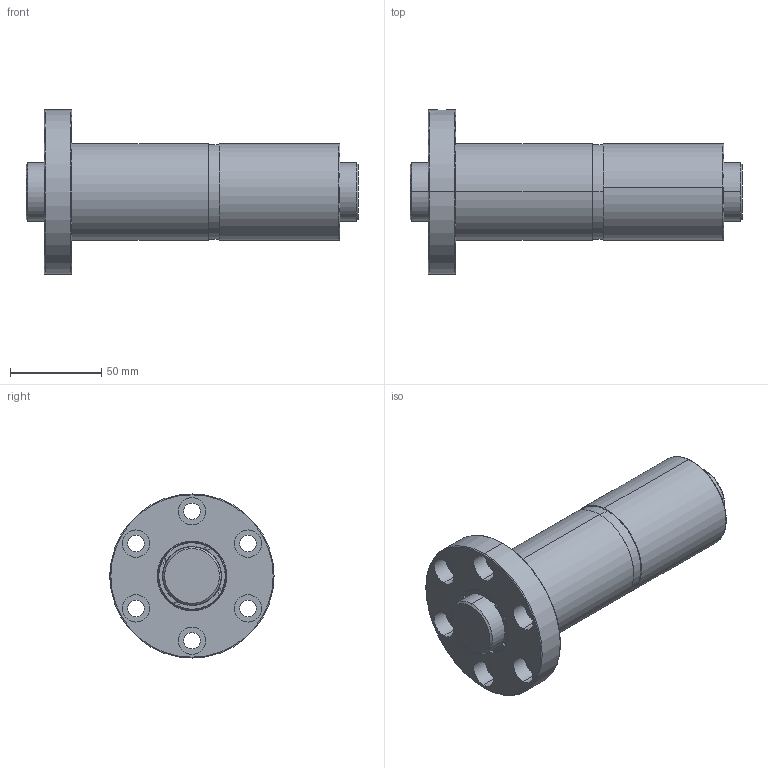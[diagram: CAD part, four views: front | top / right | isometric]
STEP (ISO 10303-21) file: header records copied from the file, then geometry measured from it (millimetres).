
FILE_DESCRIPTION (( 'STEP AP203' ), '1' );
FILE_NAME ('DFZR03210T4N-C.STEP', '2020-06-18T01:22:46', ( '' ), ( '' ), 'SwSTEP 2.0', 'SolidWorks 2013', '' );
FILE_SCHEMA (( 'CONFIG_CONTROL_DESIGN' ));
Length unit declared in the file: millimetre
Products named in the file (1): DFZR03210T4N-C
Bounding box: 182 x 90 x 90 mm (x, y, z)
Volume: 408653 mm3; surface area: 83302.9 mm2
Topology: 2 solids, 2 shells, 134 faces, 328 edges, 212 vertices
Faces by surface type: cylinder 74, plane 30, torus 26, cone 4
Entity records: 5167 total; most frequent: CARTESIAN_POINT 1851, DIRECTION 712, ORIENTED_EDGE 656, EDGE_CURVE 328, AXIS2_PLACEMENT_3D 315, VERTEX_POINT 212, CIRCLE 180, EDGE_LOOP 166
